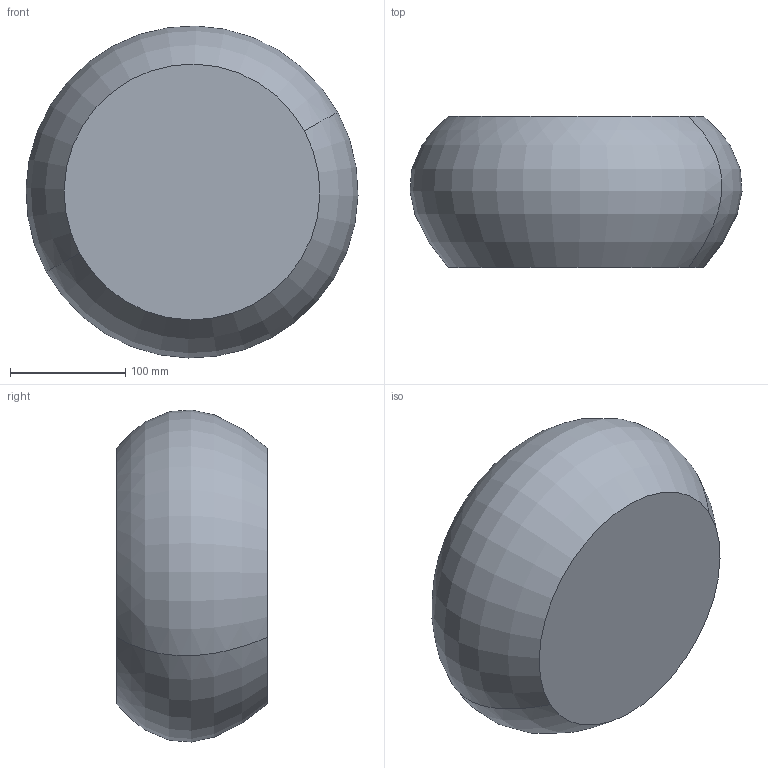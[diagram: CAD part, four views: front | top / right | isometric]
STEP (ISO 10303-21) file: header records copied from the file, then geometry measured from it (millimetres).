
FILE_DESCRIPTION(('CATIA V5 STEP Exchange'),'2;1');
FILE_NAME('C:\_Andres\UNIVERSIDAD\IQS\ASIGNATURAS\DAO\EXF\EXF-15161c\1original\Ripoll_Piera_Ej10-decora_v21.stp','2016-03-04T22:24:14+00:00',('none'),('none'),'CATIA Version 5 Release 20 SP 1 (IN-10)','CATIA V5 STEP AP203','none');
FILE_SCHEMA(('CONFIG_CONTROL_DESIGN'));
Length unit declared in the file: millimetre
Products named in the file (1): Ripoll_Piera_Ej10-decora_v21
Bounding box: 288.12 x 131 x 288.12 mm (x, y, z)
Volume: 7341327 mm3; surface area: 202800.1 mm2
Topology: 1 solids, 1 shells, 4 faces, 6 edges, 4 vertices
Faces by surface type: revolution 2, plane 2
Entity records: 166 total; most frequent: CARTESIAN_POINT 50, DIRECTION 12, ORIENTED_EDGE 12, AXIS2_PLACEMENT_3D 8, EDGE_CURVE 6, ADVANCED_FACE 4, B_SPLINE_CURVE_WITH_KNOTS 4, CC_DESIGN_PERSON_AND_ORGANIZATION_ASSIGNMENT 4
